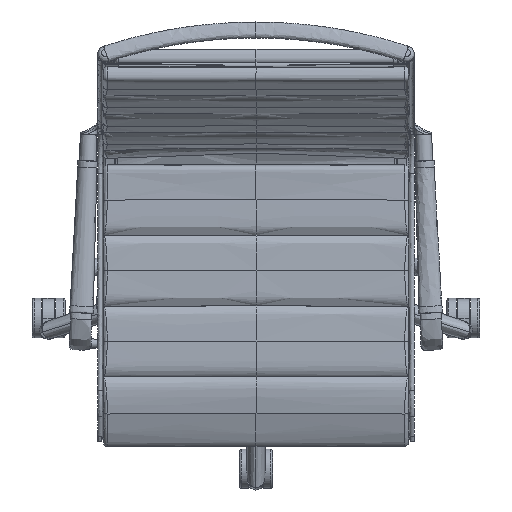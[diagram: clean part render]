
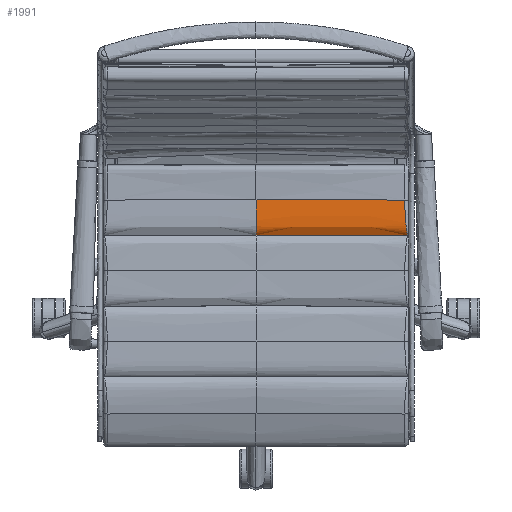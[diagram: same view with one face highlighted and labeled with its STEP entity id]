
A CAD part, top view. The second image highlights one B-rep face of the part: STEP entity #1991.
In plain terms, the highlighted free-form (B-spline) face has degree [3, 3] with [10, 7] control points.
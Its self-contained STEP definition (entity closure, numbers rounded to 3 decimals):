
#1991=ADVANCED_FACE('',(#2842),#13384,.T.);
#2842=FACE_OUTER_BOUND('',#3697,.T.);
#3697=EDGE_LOOP('',(#7220,#7221,#7222,#7223));
#7220=ORIENTED_EDGE('',*,*,#9698,.T.);
#7221=ORIENTED_EDGE('',*,*,#9693,.T.);
#7222=ORIENTED_EDGE('',*,*,#9671,.T.);
#7223=ORIENTED_EDGE('',*,*,#9672,.T.);
#9671=EDGE_CURVE('',#12722,#12723,#11314,.T.);
#9672=EDGE_CURVE('',#12723,#12736,#11315,.T.);
#9693=EDGE_CURVE('',#12740,#12722,#11336,.T.);
#9698=EDGE_CURVE('',#12736,#12740,#11341,.T.);
#11314=B_SPLINE_CURVE_WITH_KNOTS('',3,(#70173,#70174,#70175,#70176,#70177,
#70178,#70179,#70180,#70181,#70182),.UNSPECIFIED.,.F.,.F.,(4,1,1,1,1,1,
1,4),(-55.642,-51.005,-46.369,-41.732,
-37.095,-27.821,-18.547,0.),.UNSPECIFIED.);
#11315=B_SPLINE_CURVE_WITH_KNOTS('',3,(#70183,#70184,#70185,#70186,#70187,
#70188,#70189),.UNSPECIFIED.,.F.,.F.,(4,1,1,1,4),(-41.954,-31.455,
-20.956,-10.457,-0.327),.UNSPECIFIED.);
#11336=B_SPLINE_CURVE_WITH_KNOTS('',3,(#70420,#70421,#70422,#70423,#70424),
 .UNSPECIFIED.,.F.,.F.,(4,1,4),(6.,118.5,231.),
 .UNSPECIFIED.);
#11341=B_SPLINE_CURVE_WITH_KNOTS('',3,(#70518,#70519,#70520,#70521,#70522,
#70523,#70524,#70525,#70526,#70527,#70528,#70529,#70530),.UNSPECIFIED.,
 .F.,.F.,(4,1,1,1,1,1,1,1,1,1,4),(0.,2.457,
4.914,7.245,9.576,14.615,19.653,
26.926,34.199,43.778,53.358),
 .UNSPECIFIED.);
#12722=VERTEX_POINT('',#70108);
#12723=VERTEX_POINT('',#70109);
#12736=VERTEX_POINT('',#70122);
#12740=VERTEX_POINT('',#70126);
#13384=B_SPLINE_SURFACE_WITH_KNOTS('',3,3,((#67460,#67461,#67462,#67463,
#67464,#67465,#67466),(#67467,#67468,#67469,#67470,#67471,#67472,#67473),
(#67474,#67475,#67476,#67477,#67478,#67479,#67480),(#67481,#67482,#67483,
#67484,#67485,#67486,#67487),(#67488,#67489,#67490,#67491,#67492,#67493,
#67494),(#67495,#67496,#67497,#67498,#67499,#67500,#67501),(#67502,#67503,
#67504,#67505,#67506,#67507,#67508),(#67509,#67510,#67511,#67512,#67513,
#67514,#67515),(#67516,#67517,#67518,#67519,#67520,#67521,#67522),(#67523,
#67524,#67525,#67526,#67527,#67528,#67529)),.UNSPECIFIED.,.F.,.F.,.F.,(4,
1,1,1,1,1,1,4),(4,1,1,1,4),(0.,18.547,27.821,37.095,
41.732,46.369,51.005,55.642),(0.327,
10.734,21.14,31.547,41.954),
 .UNSPECIFIED.);
#67460=CARTESIAN_POINT('',(229.199,40.68,502.688));
#67461=CARTESIAN_POINT('',(210.107,40.752,502.686));
#67462=CARTESIAN_POINT('',(171.916,40.878,502.682));
#67463=CARTESIAN_POINT('',(114.62,41.013,502.678));
#67464=CARTESIAN_POINT('',(57.314,41.094,502.675));
#67465=CARTESIAN_POINT('',(19.104,41.112,502.675));
#67466=CARTESIAN_POINT('',(0.,41.112,502.675));
#67467=CARTESIAN_POINT('',(229.199,44.155,506.235));
#67468=CARTESIAN_POINT('',(210.107,44.226,506.232));
#67469=CARTESIAN_POINT('',(171.916,44.352,506.228));
#67470=CARTESIAN_POINT('',(114.62,44.486,506.224));
#67471=CARTESIAN_POINT('',(57.315,44.566,506.222));
#67472=CARTESIAN_POINT('',(19.104,44.584,506.221));
#67473=CARTESIAN_POINT('',(0.,44.584,506.221));
#67474=CARTESIAN_POINT('',(229.199,50.656,508.914));
#67475=CARTESIAN_POINT('',(210.108,50.726,508.911));
#67476=CARTESIAN_POINT('',(171.917,50.849,508.908));
#67477=CARTESIAN_POINT('',(114.621,50.981,508.903));
#67478=CARTESIAN_POINT('',(57.315,51.06,508.901));
#67479=CARTESIAN_POINT('',(19.104,51.078,508.9));
#67480=CARTESIAN_POINT('',(0.,51.078,508.9));
#67481=CARTESIAN_POINT('',(229.199,60.307,509.569));
#67482=CARTESIAN_POINT('',(210.108,60.376,509.567));
#67483=CARTESIAN_POINT('',(171.917,60.496,509.563));
#67484=CARTESIAN_POINT('',(114.621,60.624,509.559));
#67485=CARTESIAN_POINT('',(57.315,60.701,509.556));
#67486=CARTESIAN_POINT('',(19.104,60.719,509.556));
#67487=CARTESIAN_POINT('',(0.,60.719,509.556));
#67488=CARTESIAN_POINT('',(229.199,67.755,509.333));
#67489=CARTESIAN_POINT('',(210.108,67.822,509.331));
#67490=CARTESIAN_POINT('',(171.917,67.939,509.327));
#67491=CARTESIAN_POINT('',(114.622,68.065,509.323));
#67492=CARTESIAN_POINT('',(57.316,68.14,509.321));
#67493=CARTESIAN_POINT('',(19.104,68.157,509.321));
#67494=CARTESIAN_POINT('',(0.,68.157,509.321));
#67495=CARTESIAN_POINT('',(229.199,75.17,509.097));
#67496=CARTESIAN_POINT('',(210.108,75.236,509.095));
#67497=CARTESIAN_POINT('',(171.918,75.353,509.091));
#67498=CARTESIAN_POINT('',(114.622,75.478,509.087));
#67499=CARTESIAN_POINT('',(57.316,75.553,509.084));
#67500=CARTESIAN_POINT('',(19.104,75.569,509.084));
#67501=CARTESIAN_POINT('',(0.,75.569,509.084));
#67502=CARTESIAN_POINT('',(229.199,81.272,508.903));
#67503=CARTESIAN_POINT('',(210.108,81.336,508.901));
#67504=CARTESIAN_POINT('',(171.918,81.447,508.897));
#67505=CARTESIAN_POINT('',(114.623,81.567,508.892));
#67506=CARTESIAN_POINT('',(57.316,81.639,508.89));
#67507=CARTESIAN_POINT('',(19.105,81.655,508.889));
#67508=CARTESIAN_POINT('',(0.,81.655,508.889));
#67509=CARTESIAN_POINT('',(229.199,87.737,508.7));
#67510=CARTESIAN_POINT('',(210.109,87.799,508.699));
#67511=CARTESIAN_POINT('',(171.919,87.906,508.697));
#67512=CARTESIAN_POINT('',(114.623,88.02,508.695));
#67513=CARTESIAN_POINT('',(57.317,88.089,508.694));
#67514=CARTESIAN_POINT('',(19.105,88.104,508.694));
#67515=CARTESIAN_POINT('',(0.,88.104,508.694));
#67516=CARTESIAN_POINT('',(229.199,92.187,508.557));
#67517=CARTESIAN_POINT('',(210.108,92.254,508.555));
#67518=CARTESIAN_POINT('',(171.919,92.376,508.551));
#67519=CARTESIAN_POINT('',(114.624,92.504,508.547));
#67520=CARTESIAN_POINT('',(57.317,92.582,508.544));
#67521=CARTESIAN_POINT('',(19.105,92.599,508.544));
#67522=CARTESIAN_POINT('',(0.,92.599,508.544));
#67523=CARTESIAN_POINT('',(229.198,94.401,508.485));
#67524=CARTESIAN_POINT('',(210.108,94.467,508.482));
#67525=CARTESIAN_POINT('',(171.918,94.585,508.476));
#67526=CARTESIAN_POINT('',(114.623,94.711,508.47));
#67527=CARTESIAN_POINT('',(57.317,94.786,508.466));
#67528=CARTESIAN_POINT('',(19.105,94.803,508.465));
#67529=CARTESIAN_POINT('',(0.,94.803,508.465));
#70108=CARTESIAN_POINT('',(0.,94.803,508.465));
#70109=CARTESIAN_POINT('',(0.,41.112,502.675));
#70122=CARTESIAN_POINT('',(229.199,40.679,502.688));
#70126=CARTESIAN_POINT('',(225.,94.415,508.484));
#70173=CARTESIAN_POINT('',(0.,94.803,508.465));
#70174=CARTESIAN_POINT('',(0.,92.599,508.544));
#70175=CARTESIAN_POINT('',(0.,88.104,508.694));
#70176=CARTESIAN_POINT('',(0.,81.655,508.889));
#70177=CARTESIAN_POINT('',(0.,75.569,509.084));
#70178=CARTESIAN_POINT('',(0.,68.157,509.321));
#70179=CARTESIAN_POINT('',(0.,60.719,509.556));
#70180=CARTESIAN_POINT('',(0.,51.078,508.9));
#70181=CARTESIAN_POINT('',(0.,44.584,506.221));
#70182=CARTESIAN_POINT('',(0.,41.112,502.675));
#70183=CARTESIAN_POINT('',(0.,41.112,502.675));
#70184=CARTESIAN_POINT('',(19.273,41.112,502.675));
#70185=CARTESIAN_POINT('',(57.822,41.094,502.675));
#70186=CARTESIAN_POINT('',(115.636,41.011,502.678));
#70187=CARTESIAN_POINT('',(172.762,40.875,502.682));
#70188=CARTESIAN_POINT('',(210.615,40.749,502.686));
#70189=CARTESIAN_POINT('',(229.199,40.679,502.688));
#70420=CARTESIAN_POINT('',(225.,94.415,508.484));
#70421=CARTESIAN_POINT('',(187.516,94.544,508.478));
#70422=CARTESIAN_POINT('',(112.529,94.738,508.468));
#70423=CARTESIAN_POINT('',(37.511,94.803,508.465));
#70424=CARTESIAN_POINT('',(0.,94.803,508.465));
#70518=CARTESIAN_POINT('',(229.199,40.679,502.688));
#70519=CARTESIAN_POINT('',(229.066,41.293,503.314));
#70520=CARTESIAN_POINT('',(228.803,42.62,504.502));
#70521=CARTESIAN_POINT('',(228.427,44.852,506.002));
#70522=CARTESIAN_POINT('',(228.071,47.246,507.188));
#70523=CARTESIAN_POINT('',(227.613,50.676,508.415));
#70524=CARTESIAN_POINT('',(227.085,55.232,509.264));
#70525=CARTESIAN_POINT('',(226.467,61.444,509.524));
#70526=CARTESIAN_POINT('',(225.928,68.044,509.323));
#70527=CARTESIAN_POINT('',(225.43,76.03,509.07));
#70528=CARTESIAN_POINT('',(225.084,84.827,508.791));
#70529=CARTESIAN_POINT('',(225.001,91.22,508.589));
#70530=CARTESIAN_POINT('',(225.,94.415,508.484));
